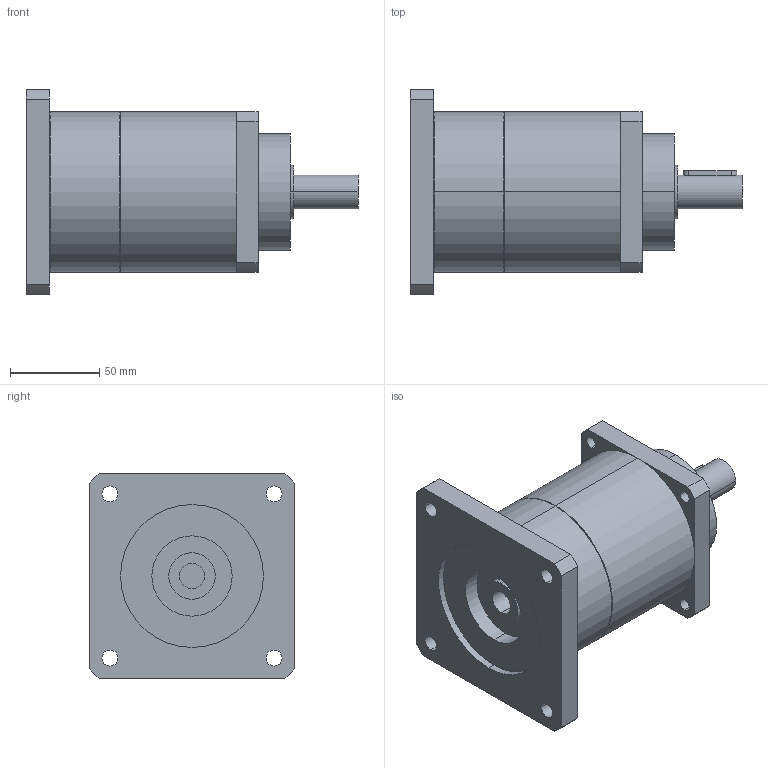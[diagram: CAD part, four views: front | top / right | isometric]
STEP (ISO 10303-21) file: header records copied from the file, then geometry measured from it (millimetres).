
FILE_DESCRIPTION(('CoCreate Modeling STEP Export'),'2;1');
FILE_NAME('GPT90_ig-9-12-16-20-25-28-35-40-50-70-100_19_B5T_14_P30.stp','2015-02-04T11:29:52',(''),(''),'CoCreate Modeling STEP processor for AP214 (Solid Model)','CoCreate Modeling 16.00C 25-Feb-2009 (C) Parametric Technology GmbH','');
FILE_SCHEMA(('AUTOMOTIVE_DESIGN { 1 0 10303 214 1 1 1 1 }'));
Length unit declared in the file: millimetre
Products named in the file (2): GPT90_ig-9-12-16-20-25-28-35-40-50-70-100_19_B5T_14_P30
Assembly tree (1 placements, depth 2):
  GPT90_ig-9-12-16-20-25-28-35-40-50-70-100_19_B5T_14_P30
    GPT90_ig-9-12-16-20-25-28-35-40-50-70-100_19_B5T_14_P30
Bounding box: 186 x 115 x 115 mm (x, y, z)
Volume: 963600.3 mm3; surface area: 82044 mm2
Topology: 1 solids, 1 shells, 77 faces, 206 edges, 141 vertices
Faces by surface type: cylinder 46, plane 27, cone 4
Entity records: 2596 total; most frequent: CARTESIAN_POINT 742, ORIENTED_EDGE 412, DIRECTION 324, EDGE_CURVE 206, VERTEX_POINT 141, AXIS2_PLACEMENT_3D 120, EDGE_LOOP 103, VECTOR 84
